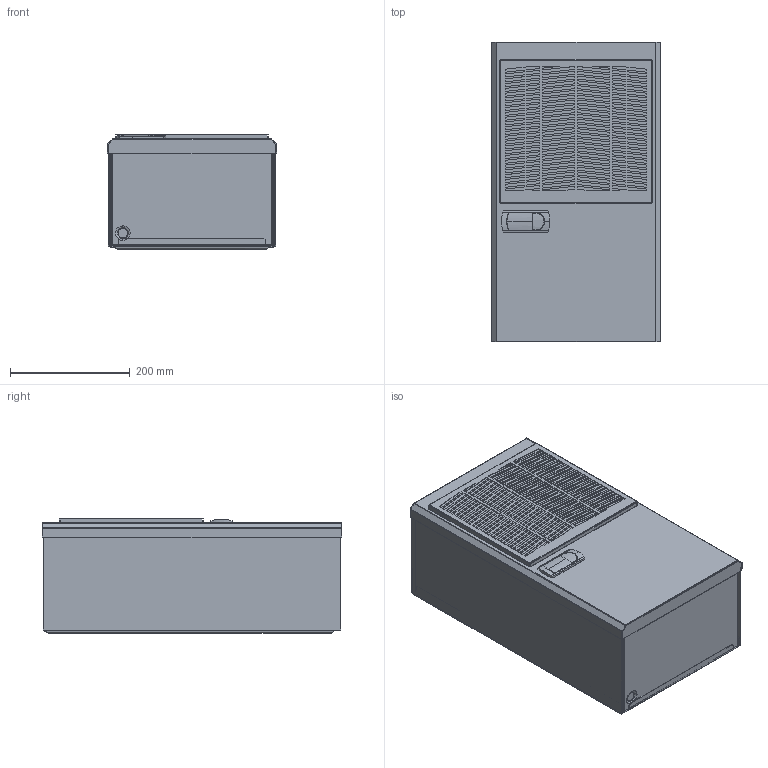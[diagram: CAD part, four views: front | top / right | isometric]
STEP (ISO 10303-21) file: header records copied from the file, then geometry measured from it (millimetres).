
FILE_DESCRIPTION(/* description */ (''),/* implementation_level */ '2;1');
FILE_NAME(/* name */ 'CCU03A231WNIyX_rh',/* time_stamp */ '2024-08-01T08:28:43+02:00',/* author */ (''),/* organization */ (''),/* preprocessor_version */ 'ST-DEVELOPER v16.5',/* originating_system */ 'Rhino 7.37',/* authorisation */ '');
FILE_SCHEMA (('AUTOMOTIVE_DESIGN'));
Length unit declared in the file: millimetre
Products named in the file (1): Document
Bounding box: 283 x 500.5 x 193.5 mm (x, y, z)
Volume: 500002.7 mm3; surface area: 1307176.4 mm2
Topology: 16 solids, 17 shells, 1144 faces, 3055 edges, 1949 vertices
Faces by surface type: plane 893, cylinder 168, bspline 83
Entity records: 39028 total; most frequent: CARTESIAN_POINT 18054, ORIENTED_EDGE 6087, EDGE_CURVE 3054, B_SPLINE_CURVE_WITH_KNOTS 2652, VERTEX_POINT 1949, EDGE_LOOP 1403, ADVANCED_FACE 1144, FACE_OUTER_BOUND 1144
